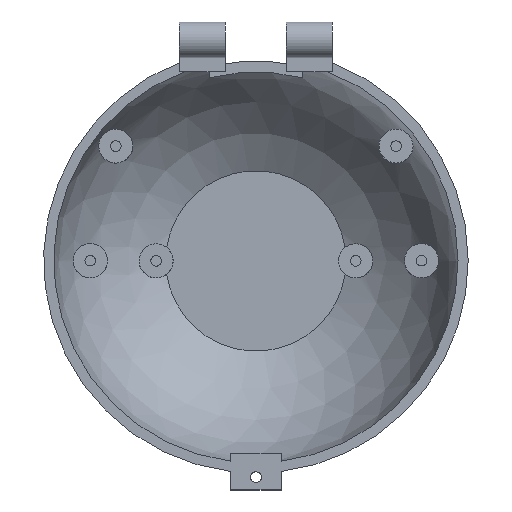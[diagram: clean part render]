
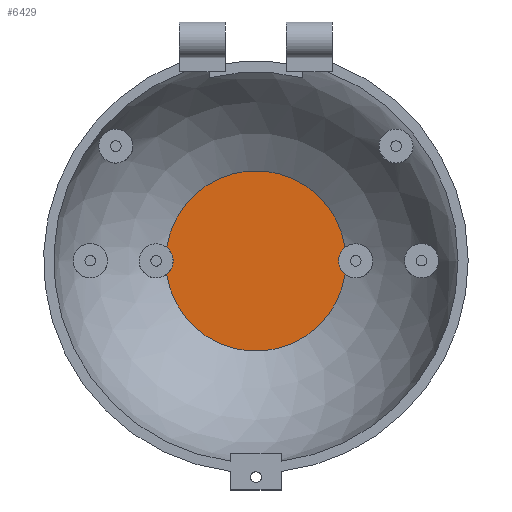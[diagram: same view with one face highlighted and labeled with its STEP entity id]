
A CAD part, top view. The second image highlights one B-rep face of the part: STEP entity #6429.
In plain terms, the highlighted planar face has unit normal (0, 0, 1).
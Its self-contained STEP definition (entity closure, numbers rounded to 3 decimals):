
#974 = SPHERICAL_SURFACE('',#975,47.6);
#975 = AXIS2_PLACEMENT_3D('',#976,#977,#978);
#976 = CARTESIAN_POINT('',(0.,0.,0.));
#977 = DIRECTION('',(0.,0.,1.));
#978 = DIRECTION('',(1.,0.,0.));
#2956 = VERTEX_POINT('',#2957);
#2957 = CARTESIAN_POINT('',(21.005,3.127,-42.6));
#3059 = CYLINDRICAL_SURFACE('',#3060,4.);
#3060 = AXIS2_PLACEMENT_3D('',#3061,#3062,#3063);
#3061 = CARTESIAN_POINT('',(23.5,0.,-45.));
#3062 = DIRECTION('',(-0.,-0.,-1.));
#3063 = DIRECTION('',(1.,0.,0.));
#3115 = EDGE_CURVE('',#2956,#3116,#3118,.T.);
#3116 = VERTEX_POINT('',#3117);
#3117 = CARTESIAN_POINT('',(-21.005,3.127,-42.6));
#3118 = SURFACE_CURVE('',#3119,(#3124,#3131),.PCURVE_S1.);
#3119 = CIRCLE('',#3120,21.237);
#3120 = AXIS2_PLACEMENT_3D('',#3121,#3122,#3123);
#3121 = CARTESIAN_POINT('',(0.,0.,-42.6));
#3122 = DIRECTION('',(0.,0.,1.));
#3123 = DIRECTION('',(1.,0.,-0.));
#3124 = PCURVE('',#974,#3125);
#3125 = DEFINITIONAL_REPRESENTATION('',(#3126),#3130);
#3126 = LINE('',#3127,#3128);
#3127 = CARTESIAN_POINT('',(0.,-1.108));
#3128 = VECTOR('',#3129,1.);
#3129 = DIRECTION('',(1.,0.));
#3130 = ( GEOMETRIC_REPRESENTATION_CONTEXT(2) 
PARAMETRIC_REPRESENTATION_CONTEXT() REPRESENTATION_CONTEXT('2D SPACE',''
  ) );
#3131 = PCURVE('',#3132,#3137);
#3132 = PLANE('',#3133);
#3133 = AXIS2_PLACEMENT_3D('',#3134,#3135,#3136);
#3134 = CARTESIAN_POINT('',(-65.,-65.,-42.6));
#3135 = DIRECTION('',(0.,0.,1.));
#3136 = DIRECTION('',(1.,0.,0.));
#3137 = DEFINITIONAL_REPRESENTATION('',(#3138),#3142);
#3138 = CIRCLE('',#3139,21.237);
#3139 = AXIS2_PLACEMENT_2D('',#3140,#3141);
#3140 = CARTESIAN_POINT('',(65.,65.));
#3141 = DIRECTION('',(1.,0.));
#3142 = ( GEOMETRIC_REPRESENTATION_CONTEXT(2) 
PARAMETRIC_REPRESENTATION_CONTEXT() REPRESENTATION_CONTEXT('2D SPACE',''
  ) );
#3145 = VERTEX_POINT('',#3146);
#3146 = CARTESIAN_POINT('',(-21.005,-3.127,-42.6));
#3368 = CYLINDRICAL_SURFACE('',#3369,4.);
#3369 = AXIS2_PLACEMENT_3D('',#3370,#3371,#3372);
#3370 = CARTESIAN_POINT('',(-23.5,0.,-45.));
#3371 = DIRECTION('',(-0.,-0.,-1.));
#3372 = DIRECTION('',(1.,0.,0.));
#3484 = EDGE_CURVE('',#3145,#3485,#3487,.T.);
#3485 = VERTEX_POINT('',#3486);
#3486 = CARTESIAN_POINT('',(21.005,-3.127,-42.6));
#3487 = SURFACE_CURVE('',#3488,(#3493,#3500),.PCURVE_S1.);
#3488 = CIRCLE('',#3489,21.237);
#3489 = AXIS2_PLACEMENT_3D('',#3490,#3491,#3492);
#3490 = CARTESIAN_POINT('',(0.,0.,-42.6));
#3491 = DIRECTION('',(0.,0.,1.));
#3492 = DIRECTION('',(1.,0.,-0.));
#3493 = PCURVE('',#974,#3494);
#3494 = DEFINITIONAL_REPRESENTATION('',(#3495),#3499);
#3495 = LINE('',#3496,#3497);
#3496 = CARTESIAN_POINT('',(0.,-1.108));
#3497 = VECTOR('',#3498,1.);
#3498 = DIRECTION('',(1.,0.));
#3499 = ( GEOMETRIC_REPRESENTATION_CONTEXT(2) 
PARAMETRIC_REPRESENTATION_CONTEXT() REPRESENTATION_CONTEXT('2D SPACE',''
  ) );
#3500 = PCURVE('',#3132,#3501);
#3501 = DEFINITIONAL_REPRESENTATION('',(#3502),#3506);
#3502 = CIRCLE('',#3503,21.237);
#3503 = AXIS2_PLACEMENT_2D('',#3504,#3505);
#3504 = CARTESIAN_POINT('',(65.,65.));
#3505 = DIRECTION('',(1.,0.));
#3506 = ( GEOMETRIC_REPRESENTATION_CONTEXT(2) 
PARAMETRIC_REPRESENTATION_CONTEXT() REPRESENTATION_CONTEXT('2D SPACE',''
  ) );
#6404 = EDGE_CURVE('',#3485,#2956,#6405,.T.);
#6405 = SURFACE_CURVE('',#6406,(#6411,#6418),.PCURVE_S1.);
#6406 = CIRCLE('',#6407,4.);
#6407 = AXIS2_PLACEMENT_3D('',#6408,#6409,#6410);
#6408 = CARTESIAN_POINT('',(23.5,0.,-42.6));
#6409 = DIRECTION('',(0.,0.,-1.));
#6410 = DIRECTION('',(1.,0.,0.));
#6411 = PCURVE('',#3059,#6412);
#6412 = DEFINITIONAL_REPRESENTATION('',(#6413),#6417);
#6413 = LINE('',#6414,#6415);
#6414 = CARTESIAN_POINT('',(-6.283,-2.4));
#6415 = VECTOR('',#6416,1.);
#6416 = DIRECTION('',(1.,-0.));
#6417 = ( GEOMETRIC_REPRESENTATION_CONTEXT(2) 
PARAMETRIC_REPRESENTATION_CONTEXT() REPRESENTATION_CONTEXT('2D SPACE',''
  ) );
#6418 = PCURVE('',#3132,#6419);
#6419 = DEFINITIONAL_REPRESENTATION('',(#6420),#6428);
#6420 = ( BOUNDED_CURVE() B_SPLINE_CURVE(2,(#6421,#6422,#6423,#6424,
#6425,#6426,#6427),.UNSPECIFIED.,.T.,.F.) B_SPLINE_CURVE_WITH_KNOTS((1,2
    ,2,2,2,1),(-2.094,0.,2.094,4.189,
6.283,8.378),.UNSPECIFIED.) CURVE() 
GEOMETRIC_REPRESENTATION_ITEM() RATIONAL_B_SPLINE_CURVE((1.,0.5,1.,0.5,
1.,0.5,1.)) REPRESENTATION_ITEM('') );
#6421 = CARTESIAN_POINT('',(92.5,65.));
#6422 = CARTESIAN_POINT('',(92.5,58.072));
#6423 = CARTESIAN_POINT('',(86.5,61.536));
#6424 = CARTESIAN_POINT('',(80.5,65.));
#6425 = CARTESIAN_POINT('',(86.5,68.464));
#6426 = CARTESIAN_POINT('',(92.5,71.928));
#6427 = CARTESIAN_POINT('',(92.5,65.));
#6428 = ( GEOMETRIC_REPRESENTATION_CONTEXT(2) 
PARAMETRIC_REPRESENTATION_CONTEXT() REPRESENTATION_CONTEXT('2D SPACE',''
  ) );
#6429 = ADVANCED_FACE('',(#6430),#3132,.T.);
#6430 = FACE_BOUND('',#6431,.T.);
#6431 = EDGE_LOOP('',(#6432,#6460,#6461,#6462,#6463));
#6432 = ORIENTED_EDGE('',*,*,#6433,.T.);
#6433 = EDGE_CURVE('',#6434,#3145,#6436,.T.);
#6434 = VERTEX_POINT('',#6435);
#6435 = CARTESIAN_POINT('',(-19.5,0.,-42.6));
#6436 = SURFACE_CURVE('',#6437,(#6442,#6453),.PCURVE_S1.);
#6437 = CIRCLE('',#6438,4.);
#6438 = AXIS2_PLACEMENT_3D('',#6439,#6440,#6441);
#6439 = CARTESIAN_POINT('',(-23.5,0.,-42.6));
#6440 = DIRECTION('',(0.,0.,-1.));
#6441 = DIRECTION('',(1.,0.,0.));
#6442 = PCURVE('',#3132,#6443);
#6443 = DEFINITIONAL_REPRESENTATION('',(#6444),#6452);
#6444 = ( BOUNDED_CURVE() B_SPLINE_CURVE(2,(#6445,#6446,#6447,#6448,
#6449,#6450,#6451),.UNSPECIFIED.,.T.,.F.) B_SPLINE_CURVE_WITH_KNOTS((1,2
    ,2,2,2,1),(-2.094,0.,2.094,4.189,
6.283,8.378),.UNSPECIFIED.) CURVE() 
GEOMETRIC_REPRESENTATION_ITEM() RATIONAL_B_SPLINE_CURVE((1.,0.5,1.,0.5,
1.,0.5,1.)) REPRESENTATION_ITEM('') );
#6445 = CARTESIAN_POINT('',(45.5,65.));
#6446 = CARTESIAN_POINT('',(45.5,58.072));
#6447 = CARTESIAN_POINT('',(39.5,61.536));
#6448 = CARTESIAN_POINT('',(33.5,65.));
#6449 = CARTESIAN_POINT('',(39.5,68.464));
#6450 = CARTESIAN_POINT('',(45.5,71.928));
#6451 = CARTESIAN_POINT('',(45.5,65.));
#6452 = ( GEOMETRIC_REPRESENTATION_CONTEXT(2) 
PARAMETRIC_REPRESENTATION_CONTEXT() REPRESENTATION_CONTEXT('2D SPACE',''
  ) );
#6453 = PCURVE('',#3368,#6454);
#6454 = DEFINITIONAL_REPRESENTATION('',(#6455),#6459);
#6455 = LINE('',#6456,#6457);
#6456 = CARTESIAN_POINT('',(-6.283,-2.4));
#6457 = VECTOR('',#6458,1.);
#6458 = DIRECTION('',(1.,-0.));
#6459 = ( GEOMETRIC_REPRESENTATION_CONTEXT(2) 
PARAMETRIC_REPRESENTATION_CONTEXT() REPRESENTATION_CONTEXT('2D SPACE',''
  ) );
#6460 = ORIENTED_EDGE('',*,*,#3484,.T.);
#6461 = ORIENTED_EDGE('',*,*,#6404,.T.);
#6462 = ORIENTED_EDGE('',*,*,#3115,.T.);
#6463 = ORIENTED_EDGE('',*,*,#6464,.T.);
#6464 = EDGE_CURVE('',#3116,#6434,#6465,.T.);
#6465 = SURFACE_CURVE('',#6466,(#6471,#6482),.PCURVE_S1.);
#6466 = CIRCLE('',#6467,4.);
#6467 = AXIS2_PLACEMENT_3D('',#6468,#6469,#6470);
#6468 = CARTESIAN_POINT('',(-23.5,0.,-42.6));
#6469 = DIRECTION('',(0.,0.,-1.));
#6470 = DIRECTION('',(1.,0.,0.));
#6471 = PCURVE('',#3132,#6472);
#6472 = DEFINITIONAL_REPRESENTATION('',(#6473),#6481);
#6473 = ( BOUNDED_CURVE() B_SPLINE_CURVE(2,(#6474,#6475,#6476,#6477,
#6478,#6479,#6480),.UNSPECIFIED.,.T.,.F.) B_SPLINE_CURVE_WITH_KNOTS((1,2
    ,2,2,2,1),(-2.094,0.,2.094,4.189,
6.283,8.378),.UNSPECIFIED.) CURVE() 
GEOMETRIC_REPRESENTATION_ITEM() RATIONAL_B_SPLINE_CURVE((1.,0.5,1.,0.5,
1.,0.5,1.)) REPRESENTATION_ITEM('') );
#6474 = CARTESIAN_POINT('',(45.5,65.));
#6475 = CARTESIAN_POINT('',(45.5,58.072));
#6476 = CARTESIAN_POINT('',(39.5,61.536));
#6477 = CARTESIAN_POINT('',(33.5,65.));
#6478 = CARTESIAN_POINT('',(39.5,68.464));
#6479 = CARTESIAN_POINT('',(45.5,71.928));
#6480 = CARTESIAN_POINT('',(45.5,65.));
#6481 = ( GEOMETRIC_REPRESENTATION_CONTEXT(2) 
PARAMETRIC_REPRESENTATION_CONTEXT() REPRESENTATION_CONTEXT('2D SPACE',''
  ) );
#6482 = PCURVE('',#3368,#6483);
#6483 = DEFINITIONAL_REPRESENTATION('',(#6484),#6488);
#6484 = LINE('',#6485,#6486);
#6485 = CARTESIAN_POINT('',(-6.283,-2.4));
#6486 = VECTOR('',#6487,1.);
#6487 = DIRECTION('',(1.,-0.));
#6488 = ( GEOMETRIC_REPRESENTATION_CONTEXT(2) 
PARAMETRIC_REPRESENTATION_CONTEXT() REPRESENTATION_CONTEXT('2D SPACE',''
  ) );
